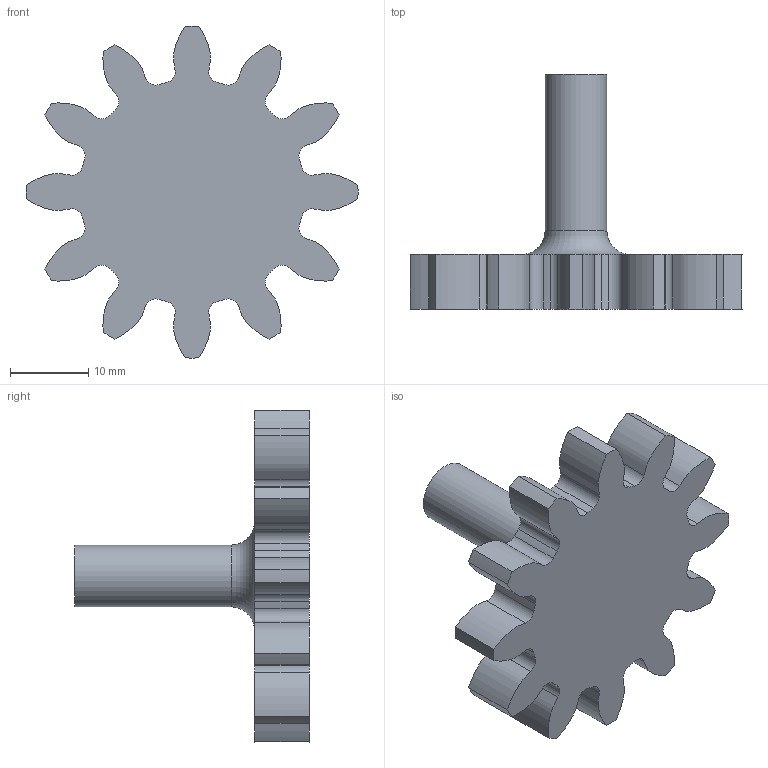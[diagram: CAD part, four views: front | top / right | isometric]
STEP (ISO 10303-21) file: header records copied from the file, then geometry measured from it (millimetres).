
FILE_DESCRIPTION(/* description */ ('STEP AP242 Edition 2','CAx-IF Rec.Pracs.---Representation and Presentation of Product Manufacturing Information (PMI)---4.0---2014-10-13','CAx-IF Rec.Pracs.---3D Tessellated Geometry---0.4---2014-09-14','2;1','CAx-IF Rec.Pracs.---User Defined Attributes---1.5---2016-08-15'),/* implementation_level */ '2;1');
FILE_NAME(/* name */ 'Assembly V2 - Part 1 (2)',/* time_stamp */ '2026-02-05T22:44:40Z',/* author */ (''),/* organization */ (''),/* preprocessor_version */ 'ST-DEVELOPER v20',/* originating_system */ 'ONSHAPE BY PTC INC, 1.210',/* authorisation */ ' ');
FILE_SCHEMA (('AP242_MANAGED_MODEL_BASED_3D_ENGINEERING_MIM_LF { 1 0 10303 442 3 1 4 }'));
Length unit declared in the file: metre
Products named in the file (1): Part 1
Bounding box: 42.41 x 30 x 42.41 mm (x, y, z)
Volume: 7786.7 mm3; surface area: 4328.7 mm2
Topology: 1 solids, 1 shells, 80 faces, 227 edges, 151 vertices
Faces by surface type: cylinder 50, bspline 24, plane 5, torus 1
Full cylindrical faces by diameter (mm): 7.9 x1
Entity records: 3424 total; most frequent: CARTESIAN_POINT 1393, ORIENTED_EDGE 450, DIRECTION 392, EDGE_CURVE 225, AXIS2_PLACEMENT_3D 158, VERTEX_POINT 151, CIRCLE 101, EDGE_LOOP 84
